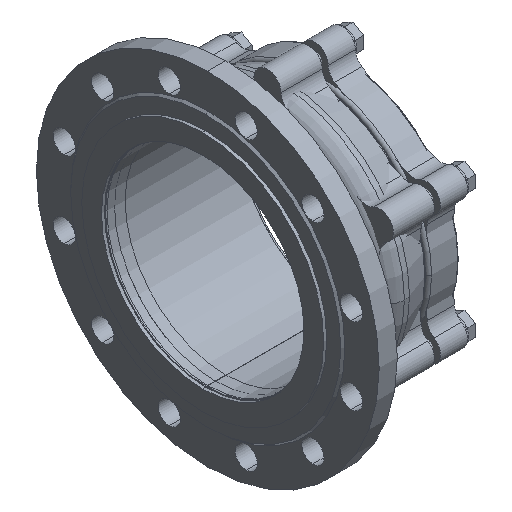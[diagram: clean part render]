
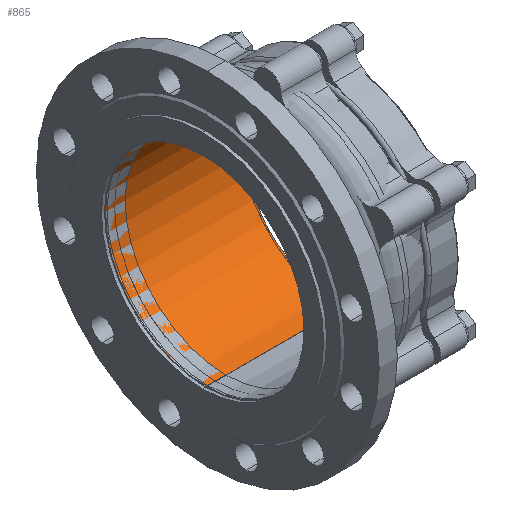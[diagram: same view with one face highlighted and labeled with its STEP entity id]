
A CAD part, isometric view. The second image highlights one B-rep face of the part: STEP entity #865.
In plain terms, the highlighted cylindrical face has radius 100 mm (diameter 200 mm), a partial arc.
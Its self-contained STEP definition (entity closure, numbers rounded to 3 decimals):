
#865=ADVANCED_FACE('',(#1726),#1727,.F.);
#1726=FACE_OUTER_BOUND('',#2850,.T.);
#1727=CYLINDRICAL_SURFACE('',#2851,100.0);
#2850=EDGE_LOOP('',(#4213,#4214,#4215,#4216));
#2851=AXIS2_PLACEMENT_3D('',#4217,#4218,#4219);
#4213=ORIENTED_EDGE('',*,*,#6026,.F.);
#4214=ORIENTED_EDGE('',*,*,#6276,.F.);
#4215=ORIENTED_EDGE('',*,*,#6028,.F.);
#4216=ORIENTED_EDGE('',*,*,#6277,.T.);
#4217=CARTESIAN_POINT('',(70.77,0.,0.0));
#4218=DIRECTION('',(1.0,0.,0.));
#4219=DIRECTION('',(0.,0.,1.0));
#6026=EDGE_CURVE('',#7087,#7088,#7089,.T.);
#6028=EDGE_CURVE('',#7090,#7092,#7093,.T.);
#6276=EDGE_CURVE('',#7092,#7087,#7480,.T.);
#6277=EDGE_CURVE('',#7090,#7088,#7481,.T.);
#7087=VERTEX_POINT('',#8486);
#7088=VERTEX_POINT('',#8487);
#7089=LINE('',#8488,#8489);
#7090=VERTEX_POINT('',#8490);
#7092=VERTEX_POINT('',#8492);
#7093=LINE('',#8493,#8494);
#7480=CIRCLE('',#8981,100.0);
#7481=CIRCLE('',#8982,100.0);
#8486=CARTESIAN_POINT('',(3.541,0.,100.0));
#8487=CARTESIAN_POINT('',(138.0,0.,100.0));
#8488=CARTESIAN_POINT('',(70.77,0.,100.0));
#8489=VECTOR('',#10062,1.0);
#8490=CARTESIAN_POINT('',(138.0,0.,-100.0));
#8492=CARTESIAN_POINT('',(3.541,0.,-100.0));
#8493=CARTESIAN_POINT('',(70.77,0.,-100.0));
#8494=VECTOR('',#10066,1.0);
#8981=AXIS2_PLACEMENT_3D('',#10416,#10417,#10418);
#8982=AXIS2_PLACEMENT_3D('',#10419,#10420,#10421);
#10062=DIRECTION('',(1.0,0.,0.));
#10066=DIRECTION('',(-1.0,0.,0.));
#10416=CARTESIAN_POINT('',(3.541,0.,0.));
#10417=DIRECTION('',(1.0,0.,0.));
#10418=DIRECTION('',(0.,0.,1.0));
#10419=CARTESIAN_POINT('',(138.0,0.,0.));
#10420=DIRECTION('',(1.0,0.,0.));
#10421=DIRECTION('',(0.,0.,1.0));
